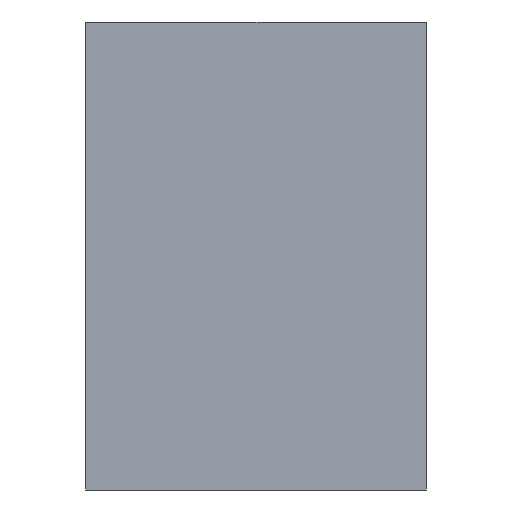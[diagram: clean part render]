
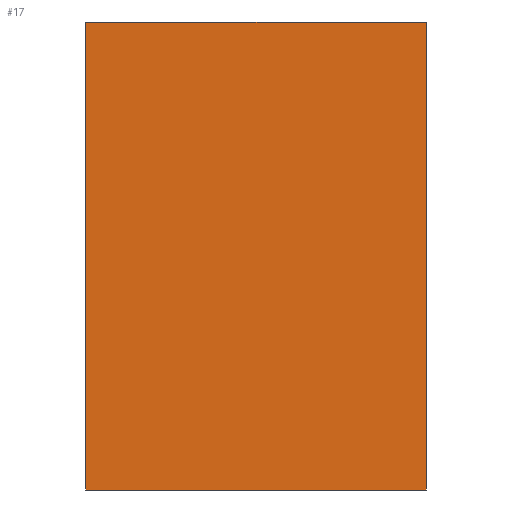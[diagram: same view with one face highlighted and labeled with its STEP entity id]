
A CAD part, left-side view. The second image highlights one B-rep face of the part: STEP entity #17.
In plain terms, the highlighted planar face has unit normal (-1, 0, 0).
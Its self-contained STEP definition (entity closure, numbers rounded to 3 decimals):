
#17 = ADVANCED_FACE('f000',(#18),#32,.F.);
#18 = FACE_BOUND('',#19,.F.);
#19 = EDGE_LOOP('',(#20,#55,#83,#111));
#20 = ORIENTED_EDGE('',*,*,#21,.F.);
#21 = EDGE_CURVE('',#22,#24,#26,.T.);
#22 = VERTEX_POINT('',#23);
#23 = CARTESIAN_POINT('',(0.,0.,0.));
#24 = VERTEX_POINT('',#25);
#25 = CARTESIAN_POINT('',(0.,0.,36.19));
#26 = SURFACE_CURVE('',#27,(#31,#43),.PCURVE_S1.);
#27 = LINE('',#28,#29);
#28 = CARTESIAN_POINT('',(0.,0.,0.));
#29 = VECTOR('',#30,1.);
#30 = DIRECTION('',(0.,0.,1.));
#31 = PCURVE('',#32,#37);
#32 = PLANE('',#33);
#33 = AXIS2_PLACEMENT_3D('',#34,#35,#36);
#34 = CARTESIAN_POINT('',(0.,0.,0.));
#35 = DIRECTION('',(1.,0.,-0.));
#36 = DIRECTION('',(0.,0.,1.));
#37 = DEFINITIONAL_REPRESENTATION('',(#38),#42);
#38 = LINE('',#39,#40);
#39 = CARTESIAN_POINT('',(0.,0.));
#40 = VECTOR('',#41,1.);
#41 = DIRECTION('',(1.,0.));
#42 = ( GEOMETRIC_REPRESENTATION_CONTEXT(2) 
PARAMETRIC_REPRESENTATION_CONTEXT() REPRESENTATION_CONTEXT('2D SPACE',''
  ) );
#43 = PCURVE('',#44,#49);
#44 = PLANE('',#45);
#45 = AXIS2_PLACEMENT_3D('',#46,#47,#48);
#46 = CARTESIAN_POINT('',(0.,0.,0.));
#47 = DIRECTION('',(-0.,1.,0.));
#48 = DIRECTION('',(0.,0.,1.));
#49 = DEFINITIONAL_REPRESENTATION('',(#50),#54);
#50 = LINE('',#51,#52);
#51 = CARTESIAN_POINT('',(0.,0.));
#52 = VECTOR('',#53,1.);
#53 = DIRECTION('',(1.,0.));
#54 = ( GEOMETRIC_REPRESENTATION_CONTEXT(2) 
PARAMETRIC_REPRESENTATION_CONTEXT() REPRESENTATION_CONTEXT('2D SPACE',''
  ) );
#55 = ORIENTED_EDGE('',*,*,#56,.T.);
#56 = EDGE_CURVE('',#22,#57,#59,.T.);
#57 = VERTEX_POINT('',#58);
#58 = CARTESIAN_POINT('',(0.,26.355,0.));
#59 = SURFACE_CURVE('',#60,(#64,#71),.PCURVE_S1.);
#60 = LINE('',#61,#62);
#61 = CARTESIAN_POINT('',(0.,0.,0.));
#62 = VECTOR('',#63,1.);
#63 = DIRECTION('',(-0.,1.,0.));
#64 = PCURVE('',#32,#65);
#65 = DEFINITIONAL_REPRESENTATION('',(#66),#70);
#66 = LINE('',#67,#68);
#67 = CARTESIAN_POINT('',(0.,0.));
#68 = VECTOR('',#69,1.);
#69 = DIRECTION('',(0.,-1.));
#70 = ( GEOMETRIC_REPRESENTATION_CONTEXT(2) 
PARAMETRIC_REPRESENTATION_CONTEXT() REPRESENTATION_CONTEXT('2D SPACE',''
  ) );
#71 = PCURVE('',#72,#77);
#72 = PLANE('',#73);
#73 = AXIS2_PLACEMENT_3D('',#74,#75,#76);
#74 = CARTESIAN_POINT('',(0.,0.,0.));
#75 = DIRECTION('',(0.,0.,1.));
#76 = DIRECTION('',(1.,0.,-0.));
#77 = DEFINITIONAL_REPRESENTATION('',(#78),#82);
#78 = LINE('',#79,#80);
#79 = CARTESIAN_POINT('',(0.,0.));
#80 = VECTOR('',#81,1.);
#81 = DIRECTION('',(0.,1.));
#82 = ( GEOMETRIC_REPRESENTATION_CONTEXT(2) 
PARAMETRIC_REPRESENTATION_CONTEXT() REPRESENTATION_CONTEXT('2D SPACE',''
  ) );
#83 = ORIENTED_EDGE('',*,*,#84,.T.);
#84 = EDGE_CURVE('',#57,#85,#87,.T.);
#85 = VERTEX_POINT('',#86);
#86 = CARTESIAN_POINT('',(0.,26.355,36.19));
#87 = SURFACE_CURVE('',#88,(#92,#99),.PCURVE_S1.);
#88 = LINE('',#89,#90);
#89 = CARTESIAN_POINT('',(0.,26.355,0.));
#90 = VECTOR('',#91,1.);
#91 = DIRECTION('',(0.,0.,1.));
#92 = PCURVE('',#32,#93);
#93 = DEFINITIONAL_REPRESENTATION('',(#94),#98);
#94 = LINE('',#95,#96);
#95 = CARTESIAN_POINT('',(0.,-26.355));
#96 = VECTOR('',#97,1.);
#97 = DIRECTION('',(1.,0.));
#98 = ( GEOMETRIC_REPRESENTATION_CONTEXT(2) 
PARAMETRIC_REPRESENTATION_CONTEXT() REPRESENTATION_CONTEXT('2D SPACE',''
  ) );
#99 = PCURVE('',#100,#105);
#100 = PLANE('',#101);
#101 = AXIS2_PLACEMENT_3D('',#102,#103,#104);
#102 = CARTESIAN_POINT('',(0.,26.355,0.));
#103 = DIRECTION('',(-0.,1.,0.));
#104 = DIRECTION('',(0.,0.,1.));
#105 = DEFINITIONAL_REPRESENTATION('',(#106),#110);
#106 = LINE('',#107,#108);
#107 = CARTESIAN_POINT('',(0.,0.));
#108 = VECTOR('',#109,1.);
#109 = DIRECTION('',(1.,0.));
#110 = ( GEOMETRIC_REPRESENTATION_CONTEXT(2) 
PARAMETRIC_REPRESENTATION_CONTEXT() REPRESENTATION_CONTEXT('2D SPACE',''
  ) );
#111 = ORIENTED_EDGE('',*,*,#112,.F.);
#112 = EDGE_CURVE('',#24,#85,#113,.T.);
#113 = SURFACE_CURVE('',#114,(#118,#125),.PCURVE_S1.);
#114 = LINE('',#115,#116);
#115 = CARTESIAN_POINT('',(0.,0.,36.19));
#116 = VECTOR('',#117,1.);
#117 = DIRECTION('',(-0.,1.,0.));
#118 = PCURVE('',#32,#119);
#119 = DEFINITIONAL_REPRESENTATION('',(#120),#124);
#120 = LINE('',#121,#122);
#121 = CARTESIAN_POINT('',(36.19,0.));
#122 = VECTOR('',#123,1.);
#123 = DIRECTION('',(0.,-1.));
#124 = ( GEOMETRIC_REPRESENTATION_CONTEXT(2) 
PARAMETRIC_REPRESENTATION_CONTEXT() REPRESENTATION_CONTEXT('2D SPACE',''
  ) );
#125 = PCURVE('',#126,#131);
#126 = PLANE('',#127);
#127 = AXIS2_PLACEMENT_3D('',#128,#129,#130);
#128 = CARTESIAN_POINT('',(0.,0.,36.19));
#129 = DIRECTION('',(0.,0.,1.));
#130 = DIRECTION('',(1.,0.,-0.));
#131 = DEFINITIONAL_REPRESENTATION('',(#132),#136);
#132 = LINE('',#133,#134);
#133 = CARTESIAN_POINT('',(0.,0.));
#134 = VECTOR('',#135,1.);
#135 = DIRECTION('',(0.,1.));
#136 = ( GEOMETRIC_REPRESENTATION_CONTEXT(2) 
PARAMETRIC_REPRESENTATION_CONTEXT() REPRESENTATION_CONTEXT('2D SPACE',''
  ) );
